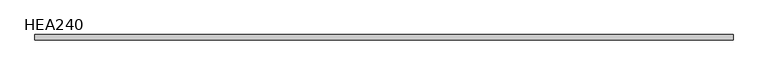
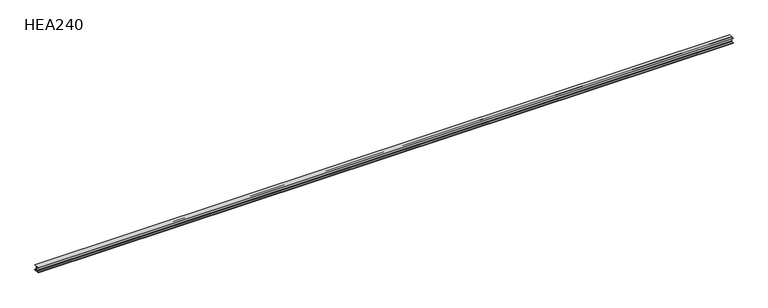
"""IFC4 building model written with IfcOpenShell, lengths in millimetres: beam geometry, HE-A : HEA240."""

from ifc_helpers import new_model, si_unit, point, frame, frame_2d, origin, place, context, project, spatial, polyline, circle_curve, trimmed, segment, composite_curve, outline, extrude, source, transform, mapped, element, save


def hea240_4a02da6d(model_context):
    return source(origin(), model_context, "Body", "SweptSolid", [
        extrude(outline(composite_curve([segment(polyline([(120.0, -103.0), (120.0, -115.0), (-120.0, -115.0), (-120.0, -103.0), (-24.75, -103.0)]), True, "CONTINUOUS"), segment(trimmed(circle_curve(frame_2d((-24.75, -82.0)), 21.0), [point((-24.75, -103.0))], [point((-3.75, -82.0))], True, "CARTESIAN"), True, "CONTINUOUS"), segment(polyline([(-3.75, -82.0), (-3.75, 82.0)]), True, "CONTINUOUS"), segment(trimmed(circle_curve(frame_2d((-24.75, 82.0)), 21.0), [point((-3.75, 82.0))], [point((-24.75, 103.0))], True, "CARTESIAN"), True, "CONTINUOUS"), segment(polyline([(-24.75, 103.0), (-120.0, 103.0), (-120.0, 115.0), (120.0, 115.0), (120.0, 103.0), (24.75, 103.0)]), True, "CONTINUOUS"), segment(trimmed(circle_curve(frame_2d((24.75, 82.0)), 21.0), [point((24.75, 103.0))], [point((3.75, 82.0))], True, "CARTESIAN"), True, "CONTINUOUS"), segment(polyline([(3.75, 82.0), (3.75, -82.0)]), True, "CONTINUOUS"), segment(trimmed(circle_curve(frame_2d((24.75, -82.0)), 21.0), [point((3.75, -82.0))], [point((24.75, -103.0))], True, "CARTESIAN"), True, "CONTINUOUS"), segment(polyline([(24.75, -103.0), (120.0, -103.0)]), True, "CONTINUOUS")], self_intersect=False)), frame((-15145.0, 0.0, 0.0), z_axis=(1.0, 0.0, 0.0), x_axis=(0.0, 1.0, 0.0)), (0.0, 0.0, 1.0), 30290.0),
    ])


if __name__ == "__main__":
    model = new_model("IFC4")
    model_context = context("Model", 3, world=origin())
    ifc_project = project(units=[si_unit("LENGTHUNIT", "METRE", prefix="MILLI")], contexts=[model_context])
    site = spatial("IfcSite", under=ifc_project)
    building = spatial("IfcBuilding", under=site)
    placement = place(None, origin())
    hea240_shape = hea240_4a02da6d(model_context)
    element("IfcBeam", 1, ObjectType="HE-A : HEA240", at=placement, inside=building, context=model_context, shape_type="MappedRepresentation", body=[
        mapped(hea240_shape, transform((0.0, 0.0, 0.0), x_axis=(1.0, 0.0, 0.0), y_axis=(0.0, 1.0, 0.0), z_axis=(0.0, 0.0, 1.0))),
    ])
    save(model, "model.ifc")
